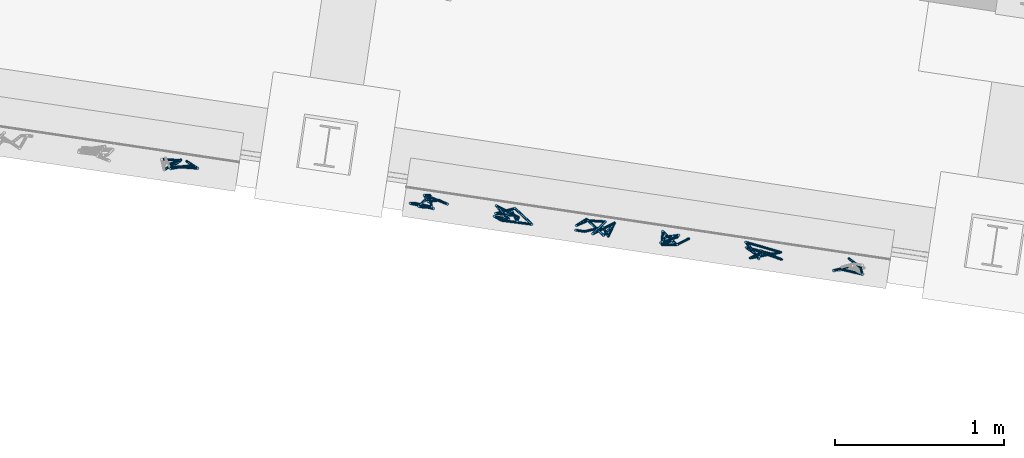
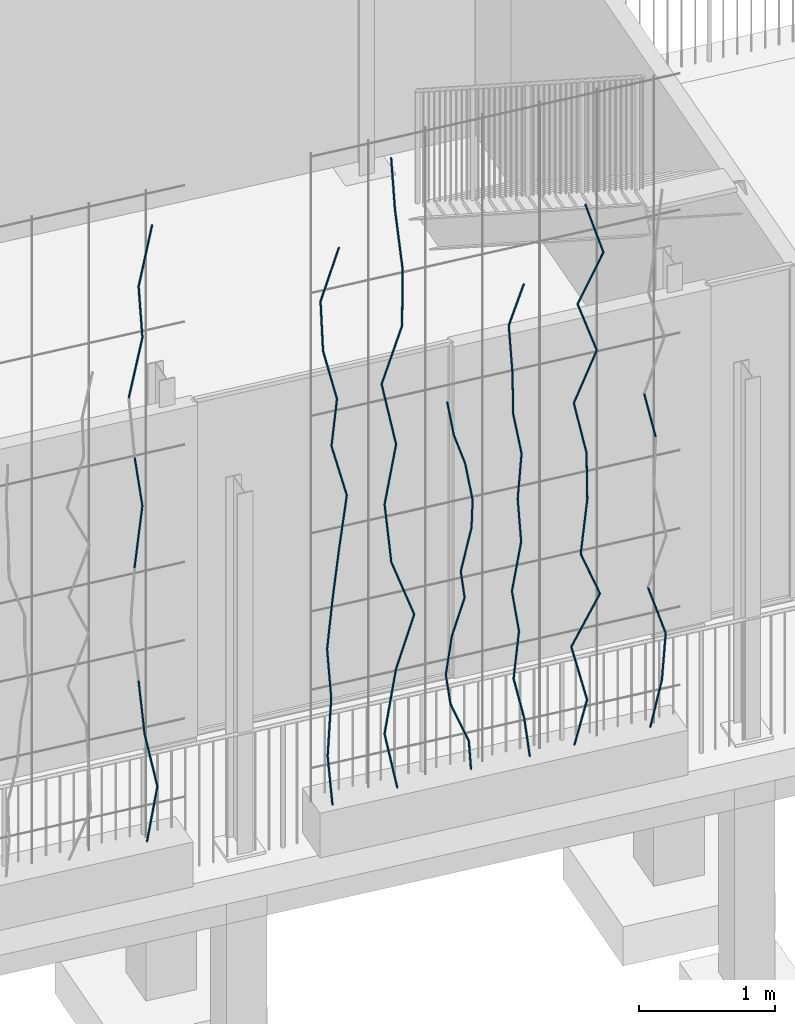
# One storey, part 125 of 143: 67 members, 1 element without a shape of its own.
"""IFC4 building model written with IfcOpenShell, lengths in metres."""

from ifc_helpers import new_model, si_unit, direction, frame, origin_with_axes, place, context, subcontext, project, spatial, circle, extrude, material, material_profile, profile_set, profile_usage, type_object, element, aggregate, save


model = new_model("IFC4")

# Units and contexts
model_context = context("Model", 3, precision=1e-05, world=origin_with_axes(), true_north=direction((0.0, 1.0)))
body_context = subcontext(model_context, "Body", "Model", "MODEL_VIEW")
ifc_project = project(units=[si_unit("VOLUMEUNIT", "CUBIC_METRE"), si_unit("LENGTHUNIT", "METRE"), si_unit("AREAUNIT", "SQUARE_METRE")], contexts=[model_context])

# Site, building, storey
site_placement = place(None, origin_with_axes())
site = spatial("IfcSite", under=ifc_project, at=site_placement, Name="Lares · Rua das Mercês · artigo 4771")
building_placement = place(site_placement, frame((15.0, 9.7, 15.8), z_axis=(0.0, 0.0, 1.0), x_axis=(0.989015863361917, -0.147809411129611, 0.0)))
building = spatial("IfcBuilding", under=site, at=building_placement, Name="Casa Sobreposta")
storey_placement = place(building_placement, origin_with_axes())
storey = spatial("IfcBuildingStorey", under=building, at=storey_placement, Name="00 · Habitação e estacionamento", Elevation=15.8)

# Assembly, members
assembly_placement = place(storey_placement, origin_with_axes())
assembly = element("IfcElementAssembly", 1, at=assembly_placement, inside=storey, Name="Fachada sul e pátio · estrutura e trepadeiras", ObjectType="LIVING_SHADE_TRELLIS", PredefinedType="USERDEFINED")
ifc_material = material(Name="Ramos de trepadeiras", Category="wood")
ifc_material_profile = material_profile(ifc_material, circle(Radius=0.0075))
ifc_profile_set = profile_set([ifc_material_profile], Name="D0.015")
ifc_profile_usage_1 = profile_usage(ifc_profile_set)
member_type = type_object("IfcMemberType", Name="D0.015 / vine_wood", PredefinedType="NOTDEFINED", material=ifc_profile_set)
member_1_placement = place(assembly_placement, frame((19.1898417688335, -1.65043430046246, 0.35), z_axis=(0.138740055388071, -0.062169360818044, 0.988375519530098), x_axis=(-0.408921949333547, -0.912569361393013, 0.0)))
member_1 = element("IfcMember", 2, at=member_1_placement, type_object=member_type, material=ifc_profile_usage_1, Name="Trepadeiras · ramo", context=body_context, shape_type="SweptSolid", body=[
    extrude(circle(Radius=0.0075), origin_with_axes(), (0.0, 0.0, 1.0), 0.508560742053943),
])
ifc_profile_usage_2 = profile_usage(ifc_profile_set)
member_2_placement = place(assembly_placement, frame((19.2603995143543, -1.68205119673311, 0.852648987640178), z_axis=(-0.203918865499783, -0.016448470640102, 0.978849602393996), x_axis=(-0.0804007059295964, 0.99676262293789, 0.0)))
member_2 = element("IfcMember", 3, at=member_2_placement, type_object=member_type, material=ifc_profile_usage_2, Name="Trepadeiras · ramo", context=body_context, shape_type="SweptSolid", body=[
    extrude(circle(Radius=0.0075), origin_with_axes(), (0.0, 0.0, 1.0), 0.513509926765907),
])
ifc_profile_usage_3 = profile_usage(ifc_profile_set)
member_3_placement = place(assembly_placement, frame((19.1556851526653, -1.69049764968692, 1.35529797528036), z_axis=(-0.106879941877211, -0.0350587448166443, 0.993653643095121), x_axis=(-0.311680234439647, 0.950187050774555, 0.0)))
member_3 = element("IfcMember", 4, at=member_3_placement, type_object=member_type, material=ifc_profile_usage_3, Name="Trepadeiras · ramo", context=body_context, shape_type="SweptSolid", body=[
    extrude(circle(Radius=0.0075), origin_with_axes(), (0.0, 0.0, 1.0), 0.505859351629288),
])
ifc_profile_usage_4 = profile_usage(ifc_profile_set)
member_4_placement = place(assembly_placement, frame((19.0765049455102, -1.69160728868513, 2.86324493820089), z_axis=(0.155101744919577, 0.0869630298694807, 0.984063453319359), x_axis=(0.489057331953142, -0.872251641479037, 0.0)))
member_4 = element("IfcMember", 5, at=member_4_placement, type_object=member_type, material=ifc_profile_usage_4, Name="Trepadeiras · ramo", context=body_context, shape_type="SweptSolid", body=[
    extrude(circle(Radius=0.0075), origin_with_axes(), (0.0, 0.0, 1.0), 0.510789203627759),
])
ifc_profile_usage_5 = profile_usage(ifc_profile_set)
member_5_placement = place(assembly_placement, frame((19.155729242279, -1.64718751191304, 3.36589392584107), z_axis=(-0.173161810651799, -0.141522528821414, 0.974672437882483), x_axis=(-0.632821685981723, 0.774297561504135, 0.0)))
member_5 = element("IfcMember", 6, at=member_5_placement, type_object=member_type, material=ifc_profile_usage_5, Name="Trepadeiras · ramo", context=body_context, shape_type="SweptSolid", body=[
    extrude(circle(Radius=0.0075), origin_with_axes(), (0.0, 0.0, 1.0), 0.515710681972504),
])
ifc_profile_usage_6 = profile_usage(ifc_profile_set)
member_6_placement = place(assembly_placement, frame((19.0430361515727, -1.66153923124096, 4.37119190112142), z_axis=(0.216829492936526, 0.0211767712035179, 0.975979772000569), x_axis=(0.0972030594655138, -0.99526457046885, 0.0)))
member_6 = element("IfcMember", 7, at=member_6_placement, type_object=member_type, material=ifc_profile_usage_6, Name="Trepadeiras · ramo", context=body_context, shape_type="SweptSolid", body=[
    extrude(circle(Radius=0.0075), origin_with_axes(), (0.0, 0.0, 1.0), 0.515019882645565),
])
ifc_profile_usage_7 = profile_usage(ifc_profile_set)
member_7_placement = place(assembly_placement, frame((19.154707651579, -1.65063277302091, 4.8738408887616), z_axis=(-0.098262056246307, -0.100013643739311, 0.990122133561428), x_axis=(-0.713325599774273, 0.700832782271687, 0.0)))
member_7 = element("IfcMember", 8, at=member_7_placement, type_object=member_type, material=ifc_profile_usage_7, Name="Trepadeiras · ramo", context=body_context, shape_type="SweptSolid", body=[
    extrude(circle(Radius=0.0075), origin_with_axes(), (0.0, 0.0, 1.0), 0.507663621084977),
])
ifc_profile_usage_8 = profile_usage(ifc_profile_set)
member_8_placement = place(assembly_placement, frame((19.1048235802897, -1.70140606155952, 5.37648987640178), z_axis=(0.228548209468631, 0.0570654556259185, 0.971858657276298), x_axis=(0.242249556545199, -0.970213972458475, 0.0)))
member_8 = element("IfcMember", 9, at=member_8_placement, type_object=member_type, material=ifc_profile_usage_8, Name="Trepadeiras · ramo", context=body_context, shape_type="SweptSolid", body=[
    extrude(circle(Radius=0.0075), origin_with_axes(), (0.0, 0.0, 1.0), 0.517203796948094),
])
ifc_profile_usage_9 = profile_usage(ifc_profile_set)
member_9_placement = place(assembly_placement, frame((20.6273763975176, -1.71270765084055, 0.35), z_axis=(-0.0835871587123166, 0.00224471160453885, 0.996497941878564), x_axis=(0.0268450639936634, 0.999639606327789, 0.0)))
member_9 = element("IfcMember", 10, at=member_9_placement, type_object=member_type, material=ifc_profile_usage_9, Name="Trepadeiras · ramo", context=body_context, shape_type="SweptSolid", body=[
    extrude(circle(Radius=0.0075), origin_with_axes(), (0.0, 0.0, 1.0), 0.454249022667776),
])
ifc_profile_usage_10 = profile_usage(ifc_profile_set)
member_10_placement = place(assembly_placement, frame((20.5894070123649, -1.71168799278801, 0.802658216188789), z_axis=(0.124814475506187, 0.161144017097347, 0.979006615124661), x_axis=(0.790586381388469, -0.61235053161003, 0.0)))
member_10 = element("IfcMember", 11, at=member_10_placement, type_object=member_type, material=ifc_profile_usage_10, Name="Trepadeiras · ramo", context=body_context, shape_type="SweptSolid", body=[
    extrude(circle(Radius=0.0075), origin_with_axes(), (0.0, 0.0, 1.0), 0.462364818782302),
])
ifc_profile_usage_11 = profile_usage(ifc_profile_set)
member_11_placement = place(assembly_placement, frame((20.6471168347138, -1.63718066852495, 1.25531643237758), z_axis=(-0.0761302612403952, -0.0115954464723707, 0.997030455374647), x_axis=(-0.150574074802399, 0.988598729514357, 0.0)))
member_11 = element("IfcMember", 12, at=member_11_placement, type_object=member_type, material=ifc_profile_usage_11, Name="Trepadeiras · ramo", context=body_context, shape_type="SweptSolid", body=[
    extrude(circle(Radius=0.0075), origin_with_axes(), (0.0, 0.0, 1.0), 0.454006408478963),
])
ifc_profile_usage_12 = profile_usage(ifc_profile_set)
member_12_placement = place(assembly_placement, frame((20.6125532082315, -1.64244507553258, 1.70797464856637), z_axis=(0.0638104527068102, -0.07208499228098, 0.995355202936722), x_axis=(-0.748775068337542, -0.662824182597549, 0.0)))
member_12 = element("IfcMember", 13, at=member_12_placement, type_object=member_type, material=ifc_profile_usage_12, Name="Trepadeiras · ramo", context=body_context, shape_type="SweptSolid", body=[
    extrude(circle(Radius=0.0075), origin_with_axes(), (0.0, 0.0, 1.0), 0.454770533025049),
])
ifc_profile_usage_13 = profile_usage(ifc_profile_set)
member_13_placement = place(assembly_placement, frame((20.6415723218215, -1.67522720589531, 2.16063286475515), z_axis=(0.134562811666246, 0.0371278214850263, 0.990209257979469), x_axis=(0.265975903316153, -0.963979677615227, 0.0)))
member_13 = element("IfcMember", 14, at=member_13_placement, type_object=member_type, material=ifc_profile_usage_13, Name="Trepadeiras · ramo", context=body_context, shape_type="SweptSolid", body=[
    extrude(circle(Radius=0.0075), origin_with_axes(), (0.0, 0.0, 1.0), 0.457133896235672),
])
ifc_profile_usage_14 = profile_usage(ifc_profile_set)
member_14_placement = place(assembly_placement, frame((20.7030855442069, -1.65825482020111, 2.61329108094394), z_axis=(0.115686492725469, -0.0326950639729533, 0.99274753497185), x_axis=(-0.271965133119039, -0.962307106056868, -3.58129519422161e-18)))
member_14 = element("IfcMember", 15, at=member_14_placement, type_object=member_type, material=ifc_profile_usage_14, Name="Trepadeiras · ramo", context=body_context, shape_type="SweptSolid", body=[
    extrude(circle(Radius=0.0075), origin_with_axes(), (0.0, 0.0, 1.0), 0.455965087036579),
])
ifc_profile_usage_15 = profile_usage(ifc_profile_set)
member_15_placement = place(assembly_placement, frame((20.7558345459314, -1.67316262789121, 3.06594929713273), z_axis=(-0.237226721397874, 0.0552053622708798, 0.969884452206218), x_axis=(0.226655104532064, 0.973975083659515, 0.0)))
member_15 = element("IfcMember", 16, at=member_15_placement, type_object=member_type, material=ifc_profile_usage_15, Name="Trepadeiras · ramo", context=body_context, shape_type="SweptSolid", body=[
    extrude(circle(Radius=0.0075), origin_with_axes(), (0.0, 0.0, 1.0), 0.466713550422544),
])
ifc_profile_usage_16 = profile_usage(ifc_profile_set)
member_16_placement = place(assembly_placement, frame((20.6451176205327, -1.6473975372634, 3.51860751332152), z_axis=(0.0464804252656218, -0.122384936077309, 0.991393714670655), x_axis=(-0.934849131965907, -0.35504520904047, 0.0)))
member_16 = element("IfcMember", 17, at=member_16_placement, type_object=member_type, material=ifc_profile_usage_16, Name="Trepadeiras · ramo", context=body_context, shape_type="SweptSolid", body=[
    extrude(circle(Radius=0.0075), origin_with_axes(), (0.0, 0.0, 1.0), 0.456587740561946),
])
ifc_profile_usage_17 = profile_usage(ifc_profile_set)
member_17_placement = place(assembly_placement, frame((20.6663400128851, -1.70327699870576, 3.97126572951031), z_axis=(-0.230614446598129, 0.0148450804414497, 0.972931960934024), x_axis=(0.0642389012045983, 0.997934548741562, 0.0)))
member_17 = element("IfcMember", 18, at=member_17_placement, type_object=member_type, material=ifc_profile_usage_17, Name="Trepadeiras · ramo", context=body_context, shape_type="SweptSolid", body=[
    extrude(circle(Radius=0.0075), origin_with_axes(), (0.0, 0.0, 1.0), 0.465251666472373),
])
ifc_profile_usage_18 = profile_usage(ifc_profile_set)
member_18_placement = place(assembly_placement, frame((20.5590462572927, -1.69637030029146, 4.4239239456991), z_axis=(-0.0477503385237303, -0.0120278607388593, 0.998786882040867), x_axis=(-0.244260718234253, 0.969709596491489, 0.0)))
member_18 = element("IfcMember", 19, at=member_18_placement, type_object=member_type, material=ifc_profile_usage_18, Name="Trepadeiras · ramo", context=body_context, shape_type="SweptSolid", body=[
    extrude(circle(Radius=0.0075), origin_with_axes(), (0.0, 0.0, 1.0), 0.453208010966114),
])
ifc_profile_usage_19 = profile_usage(ifc_profile_set)
member_19_placement = place(assembly_placement, frame((20.5374054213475, -1.70182142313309, 4.87658216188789), z_axis=(0.297139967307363, -0.0221915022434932, 0.95457601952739), x_axis=(-0.0744762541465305, -0.997222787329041, 0.0)))
member_19 = element("IfcMember", 20, at=member_19_placement, type_object=member_type, material=ifc_profile_usage_19, Name="Trepadeiras · ramo", context=body_context, shape_type="SweptSolid", body=[
    extrude(circle(Radius=0.0075), origin_with_axes(), (0.0, 0.0, 1.0), 0.474198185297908),
])
ifc_profile_usage_20 = profile_usage(ifc_profile_set)
member_20_placement = place(assembly_placement, frame((21.1508159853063, -1.68230697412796, 0.35), z_axis=(-0.195931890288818, -0.00688597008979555, 0.980593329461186), x_axis=(-0.0351230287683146, 0.99938299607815, 0.0)))
member_20 = element("IfcMember", 21, at=member_20_placement, type_object=member_type, material=ifc_profile_usage_20, Name="Trepadeiras · ramo", context=body_context, shape_type="SweptSolid", body=[
    extrude(circle(Radius=0.0075), origin_with_axes(), (0.0, 0.0, 1.0), 0.526725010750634),
])
ifc_profile_usage_21 = profile_usage(ifc_profile_set)
member_21_placement = place(assembly_placement, frame((21.0476137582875, -1.68593398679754, 0.866503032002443), z_axis=(0.203482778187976, 0.0879343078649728, 0.97512169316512), x_axis=(0.396689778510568, -0.917952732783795, 0.0)))
member_21 = element("IfcMember", 22, at=member_21_placement, type_object=member_type, material=ifc_profile_usage_21, Name="Trepadeiras · ramo", context=body_context, shape_type="SweptSolid", body=[
    extrude(circle(Radius=0.0075), origin_with_axes(), (0.0, 0.0, 1.0), 0.529680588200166),
])
ifc_profile_usage_22 = profile_usage(ifc_profile_set)
member_22_placement = place(assembly_placement, frame((21.1553946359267, -1.63935689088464, 1.38300606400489), z_axis=(0.212115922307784, -0.146392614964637, 0.966217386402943), x_axis=(-0.568011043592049, -0.823020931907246, 0.0)))
member_22 = element("IfcMember", 23, at=member_22_placement, type_object=member_type, material=ifc_profile_usage_22, Name="Trepadeiras · ramo", context=body_context, shape_type="SweptSolid", body=[
    extrude(circle(Radius=0.0075), origin_with_axes(), (0.0, 0.0, 1.0), 0.534561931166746),
])
ifc_profile_usage_23 = profile_usage(ifc_profile_set)
member_23_placement = place(assembly_placement, frame((21.2687837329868, -1.71761280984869, 1.89950909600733), z_axis=(-0.332001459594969, -0.00695787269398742, 0.943253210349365), x_axis=(-0.0209527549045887, 0.999780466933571, -1.23186526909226e-18)))
member_23 = element("IfcMember", 24, at=member_23_placement, type_object=member_type, material=ifc_profile_usage_23, Name="Trepadeiras · ramo", context=body_context, shape_type="SweptSolid", body=[
    extrude(circle(Radius=0.0075), origin_with_axes(), (0.0, 0.0, 1.0), 0.547576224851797),
])
ifc_profile_usage_24 = profile_usage(ifc_profile_set)
member_24_placement = place(assembly_placement, frame((21.0869876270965, -1.72142277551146, 2.41601212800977), z_axis=(-0.0884008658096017, 0.034321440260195, 0.995493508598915), x_axis=(0.361927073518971, 0.932206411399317, 0.0)))
member_24 = element("IfcMember", 25, at=member_24_placement, type_object=member_type, material=ifc_profile_usage_24, Name="Trepadeiras · ramo", context=body_context, shape_type="SweptSolid", body=[
    extrude(circle(Radius=0.0075), origin_with_axes(), (0.0, 0.0, 1.0), 0.518841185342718),
])
ifc_profile_usage_25 = profile_usage(ifc_profile_set)
member_25_placement = place(assembly_placement, frame((21.0411216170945, -1.70361539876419, 2.93251516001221), z_axis=(0.169583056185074, -0.00834312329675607, 0.985480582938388), x_axis=(-0.0491384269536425, -0.998791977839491, 0.0)))
member_25 = element("IfcMember", 26, at=member_25_placement, type_object=member_type, material=ifc_profile_usage_25, Name="Trepadeiras · ramo", context=body_context, shape_type="SweptSolid", body=[
    extrude(circle(Radius=0.0075), origin_with_axes(), (0.0, 0.0, 1.0), 0.524112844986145),
])
ifc_profile_usage_26 = profile_usage(ifc_profile_set)
member_26_placement = place(assembly_placement, frame((21.1300022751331, -1.70798813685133, 3.44901819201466), z_axis=(-0.165196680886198, 0.12887641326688, 0.977804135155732), x_axis=(0.615100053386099, 0.788449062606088, 0.0)))
member_26 = element("IfcMember", 27, at=member_26_placement, type_object=member_type, material=ifc_profile_usage_26, Name="Trepadeiras · ramo", context=body_context, shape_type="SweptSolid", body=[
    extrude(circle(Radius=0.0075), origin_with_axes(), (0.0, 0.0, 1.0), 0.528227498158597),
])
ifc_profile_usage_27 = profile_usage(ifc_profile_set)
member_27_placement = place(assembly_placement, frame((21.0427408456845, -1.63991207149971, 3.9655212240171), z_axis=(0.263772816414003, -0.0896208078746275, 0.960412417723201), x_axis=(-0.321703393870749, -0.946840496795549, 0.0)))
member_27 = element("IfcMember", 28, at=member_27_placement, type_object=member_type, material=ifc_profile_usage_27, Name="Trepadeiras · ramo", context=body_context, shape_type="SweptSolid", body=[
    extrude(circle(Radius=0.0075), origin_with_axes(), (0.0, 0.0, 1.0), 0.537792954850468),
])
ifc_profile_usage_28 = profile_usage(ifc_profile_set)
member_28_placement = place(assembly_placement, frame((21.184596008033, -1.68810951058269, 4.48202425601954), z_axis=(-0.00884303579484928, -0.0496550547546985, 0.998727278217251), x_axis=(-0.984509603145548, 0.175330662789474, 0.0)))
member_28 = element("IfcMember", 29, at=member_28_placement, type_object=member_type, material=ifc_profile_usage_28, Name="Trepadeiras · ramo", context=body_context, shape_type="SweptSolid", body=[
    extrude(circle(Radius=0.0075), origin_with_axes(), (0.0, 0.0, 1.0), 0.517161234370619),
])
ifc_profile_usage_29 = profile_usage(ifc_profile_set)
member_29_placement = place(assembly_placement, frame((21.1800227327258, -1.71378917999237, 4.99852728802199), z_axis=(-0.0758756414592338, 0.105289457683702, 0.991542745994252), x_axis=(0.811288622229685, 0.584645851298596, 0.0)))
member_29 = element("IfcMember", 30, at=member_29_placement, type_object=member_type, material=ifc_profile_usage_29, Name="Trepadeiras · ramo", context=body_context, shape_type="SweptSolid", body=[
    extrude(circle(Radius=0.0075), origin_with_axes(), (0.0, 0.0, 1.0), 0.520908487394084),
])
ifc_profile_usage_30 = profile_usage(ifc_profile_set)
member_30_placement = place(assembly_placement, frame((21.1404984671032, -1.65894300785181, 5.51503032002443), z_axis=(-0.104207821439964, -0.117962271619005, 0.987535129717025), x_axis=(-0.749448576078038, 0.662062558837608, -1.08838242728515e-17)))
member_30 = element("IfcMember", 31, at=member_30_placement, type_object=member_type, material=ifc_profile_usage_30, Name="Trepadeiras · ramo", context=body_context, shape_type="SweptSolid", body=[
    extrude(circle(Radius=0.0075), origin_with_axes(), (0.0, 0.0, 1.0), 0.523022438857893),
])
ifc_profile_usage_31 = profile_usage(ifc_profile_set)
member_31_placement = place(assembly_placement, frame((21.7400761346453, -1.65737869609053, 0.35), z_axis=(-0.132655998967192, -0.198443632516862, 0.971093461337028), x_axis=(-0.831353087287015, 0.555744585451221, 0.0)))
member_31 = element("IfcMember", 32, at=member_31_placement, type_object=member_type, material=ifc_profile_usage_31, Name="Trepadeiras · ramo", context=body_context, shape_type="SweptSolid", body=[
    extrude(circle(Radius=0.0075), origin_with_axes(), (0.0, 0.0, 1.0), 0.316169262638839),
])
ifc_profile_usage_32 = profile_usage(ifc_profile_set)
member_32_placement = place(assembly_placement, frame((21.6981343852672, -1.72012047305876, 0.657029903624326), z_axis=(-0.333334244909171, 0.241004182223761, 0.911485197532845), x_axis=(0.585910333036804, 0.810375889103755, 0.0)))
member_32 = element("IfcMember", 33, at=member_32_placement, type_object=member_type, material=ifc_profile_usage_32, Name="Trepadeiras · ramo", context=body_context, shape_type="SweptSolid", body=[
    extrude(circle(Radius=0.0075), origin_with_axes(), (0.0, 0.0, 1.0), 0.336845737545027),
])
ifc_profile_usage_33 = profile_usage(ifc_profile_set)
member_33_placement = place(assembly_placement, frame((21.5858521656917, -1.63893924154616, 0.964059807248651), z_axis=(-0.176045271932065, -0.148963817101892, 0.973045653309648), x_axis=(-0.645948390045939, 0.763381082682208, 0.0)))
member_33 = element("IfcMember", 34, at=member_33_placement, type_object=member_type, material=ifc_profile_usage_33, Name="Trepadeiras · ramo", context=body_context, shape_type="SweptSolid", body=[
    extrude(circle(Radius=0.0075), origin_with_axes(), (0.0, 0.0, 1.0), 0.31553494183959),
])
ifc_profile_usage_34 = profile_usage(ifc_profile_set)
member_34_placement = place(assembly_placement, frame((21.5303037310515, -1.68594253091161, 1.27108971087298), z_axis=(0.200304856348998, 0.124144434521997, 0.971836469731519), x_axis=(0.526803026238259, -0.84998739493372, 0.0)))
member_34 = element("IfcMember", 35, at=member_34_placement, type_object=member_type, material=ifc_profile_usage_34, Name="Trepadeiras · ramo", context=body_context, shape_type="SweptSolid", body=[
    extrude(circle(Radius=0.0075), origin_with_axes(), (0.0, 0.0, 1.0), 0.315927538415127),
])
ifc_profile_usage_35 = profile_usage(ifc_profile_set)
member_35_placement = place(assembly_placement, frame((21.5935855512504, -1.64672188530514, 1.5781196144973), z_axis=(0.32025230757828, 0.0266897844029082, 0.946956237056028), x_axis=(0.083051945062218, -0.996545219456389, 0.0)))
member_35 = element("IfcMember", 36, at=member_35_placement, type_object=member_type, material=ifc_profile_usage_35, Name="Trepadeiras · ramo", context=body_context, shape_type="SweptSolid", body=[
    extrude(circle(Radius=0.0075), origin_with_axes(), (0.0, 0.0, 1.0), 0.324228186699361),
])
ifc_profile_usage_36 = profile_usage(ifc_profile_set)
member_36_placement = place(assembly_placement, frame((21.6974203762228, -1.63806830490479, 1.88514951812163), z_axis=(-0.194227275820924, -0.253704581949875, 0.947580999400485), x_axis=(-0.794028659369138, 0.607880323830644, 0.0)))
member_36 = element("IfcMember", 37, at=member_36_placement, type_object=member_type, material=ifc_profile_usage_36, Name="Trepadeiras · ramo", context=body_context, shape_type="SweptSolid", body=[
    extrude(circle(Radius=0.0075), origin_with_axes(), (0.0, 0.0, 1.0), 0.324014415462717),
])
ifc_profile_usage_37 = profile_usage(ifc_profile_set)
member_37_placement = place(assembly_placement, frame((21.6344879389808, -1.72027224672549, 2.19217942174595), z_axis=(0.346862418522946, 0.245001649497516, 0.905351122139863), x_axis=(0.576930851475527, -0.816792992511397, 0.0)))
member_37 = element("IfcMember", 38, at=member_37_placement, type_object=member_type, material=ifc_profile_usage_37, Name="Trepadeiras · ramo", context=body_context, shape_type="SweptSolid", body=[
    extrude(circle(Radius=0.0075), origin_with_axes(), (0.0, 0.0, 1.0), 0.339127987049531),
])
ifc_profile_usage_38 = profile_usage(ifc_profile_set)
member_38_placement = place(assembly_placement, frame((21.7521186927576, -1.63718533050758, 2.49920932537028), z_axis=(-0.0767531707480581, -0.261711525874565, 0.962089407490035), x_axis=(-0.959584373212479, 0.281421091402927, 0.0)))
member_38 = element("IfcMember", 39, at=member_38_placement, type_object=member_type, material=ifc_profile_usage_38, Name="Trepadeiras · ramo", context=body_context, shape_type="SweptSolid", body=[
    extrude(circle(Radius=0.0075), origin_with_axes(), (0.0, 0.0, 1.0), 0.319128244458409),
])
ifc_profile_usage_39 = profile_usage(ifc_profile_set)
member_39_placement = place(assembly_placement, frame((21.7276245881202, -1.72070487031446, 2.80623922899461), z_axis=(-0.128062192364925, 0.15347184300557, 0.979819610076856), x_axis=(0.767805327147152, 0.640683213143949, 1.70070422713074e-17)))
member_39 = element("IfcMember", 40, at=member_39_placement, type_object=member_type, material=ifc_profile_usage_39, Name="Trepadeiras · ramo", context=body_context, shape_type="SweptSolid", body=[
    extrude(circle(Radius=0.0075), origin_with_axes(), (0.0, 0.0, 1.0), 0.313353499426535),
])
ifc_profile_usage_40 = profile_usage(ifc_profile_set)
member_40_placement = place(assembly_placement, frame((21.6874958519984, -1.67261393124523, 3.11326913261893), z_axis=(-0.321953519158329, -0.127479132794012, 0.938133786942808), x_axis=(-0.368146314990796, 0.929767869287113, 0.0)))
member_40 = element("IfcMember", 41, at=member_40_placement, type_object=member_type, material=ifc_profile_usage_40, Name="Trepadeiras · ramo", context=body_context, shape_type="SweptSolid", body=[
    extrude(circle(Radius=0.0075), origin_with_axes(), (0.0, 0.0, 1.0), 0.32727731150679),
])
ifc_profile_usage_41 = profile_usage(ifc_profile_set)
member_41_placement = place(assembly_placement, frame((21.5821277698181, -1.71433495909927, 3.42029903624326), z_axis=(-0.1646374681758, 0.00473812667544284, 0.986342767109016), x_axis=(0.028767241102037, 0.999586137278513, 0.0)))
member_41 = element("IfcMember", 42, at=member_41_placement, type_object=member_type, material=ifc_profile_usage_41, Name="Trepadeiras · ramo", context=body_context, shape_type="SweptSolid", body=[
    extrude(circle(Radius=0.0075), origin_with_axes(), (0.0, 0.0, 1.0), 0.31128114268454),
])
ifc_profile_usage_42 = profile_usage(ifc_profile_set)
member_42_placement = place(assembly_placement, frame((22.2010948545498, -1.66404666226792, 0.35), z_axis=(-0.156267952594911, -0.113426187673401, 0.981180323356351), x_axis=(-0.587415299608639, 0.809285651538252, 0.0)))
member_42 = element("IfcMember", 43, at=member_42_placement, type_object=member_type, material=ifc_profile_usage_42, Name="Trepadeiras · ramo", context=body_context, shape_type="SweptSolid", body=[
    extrude(circle(Radius=0.0075), origin_with_axes(), (0.0, 0.0, 1.0), 0.39630472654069),
])
ifc_profile_usage_43 = profile_usage(ifc_profile_set)
member_43_placement = place(assembly_placement, frame((22.1391651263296, -1.70899799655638, 0.738846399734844), z_axis=(-0.22503098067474, -0.0357928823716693, 0.973693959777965), x_axis=(-0.157082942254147, 0.98758541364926, 0.0)))
member_43 = element("IfcMember", 44, at=member_43_placement, type_object=member_type, material=ifc_profile_usage_43, Name="Trepadeiras · ramo", context=body_context, shape_type="SweptSolid", body=[
    extrude(circle(Radius=0.0075), origin_with_axes(), (0.0, 0.0, 1.0), 0.399351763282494),
])
ifc_profile_usage_44 = profile_usage(ifc_profile_set)
member_44_placement = place(assembly_placement, frame((22.0492986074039, -1.72329194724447, 1.12769279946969), z_axis=(0.140633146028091, 0.0834297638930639, 0.986540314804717), x_axis=(0.510216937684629, -0.860045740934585, 0.0)))
member_44 = element("IfcMember", 45, at=member_44_placement, type_object=member_type, material=ifc_profile_usage_44, Name="Trepadeiras · ramo", context=body_context, shape_type="SweptSolid", body=[
    extrude(circle(Radius=0.0075), origin_with_axes(), (0.0, 0.0, 1.0), 0.394151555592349),
])
ifc_profile_usage_45 = profile_usage(ifc_profile_set)
member_45_placement = place(assembly_placement, frame((22.1047293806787, -1.69040797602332, 1.51653919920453), z_axis=(-0.163460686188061, -0.0585675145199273, 0.984809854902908), x_axis=(-0.337300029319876, 0.941397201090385, 0.0)))
member_45 = element("IfcMember", 46, at=member_45_placement, type_object=member_type, material=ifc_profile_usage_45, Name="Trepadeiras · ramo", context=body_context, shape_type="SweptSolid", body=[
    extrude(circle(Radius=0.0075), origin_with_axes(), (0.0, 0.0, 1.0), 0.394844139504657),
])
ifc_profile_usage_46 = profile_usage(ifc_profile_set)
member_46_placement = place(assembly_placement, frame((22.040187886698, -1.71353301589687, 1.90538559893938), z_axis=(0.227101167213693, 0.117683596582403, 0.966734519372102), x_axis=(0.460093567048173, -0.8878704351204, 0.0)))
member_46 = element("IfcMember", 47, at=member_46_placement, type_object=member_type, material=ifc_profile_usage_46, Name="Trepadeiras · ramo", context=body_context, shape_type="SweptSolid", body=[
    extrude(circle(Radius=0.0075), origin_with_axes(), (0.0, 0.0, 1.0), 0.402226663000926),
])
ifc_profile_usage_47 = profile_usage(ifc_profile_set)
member_47_placement = place(assembly_placement, frame((22.1315340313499, -1.66619753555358, 2.29423199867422), z_axis=(-0.0684616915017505, 0.00441438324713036, 0.997643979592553), x_axis=(0.0643459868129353, 0.997927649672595, 0.0)))
member_47 = element("IfcMember", 48, at=member_47_placement, type_object=member_type, material=ifc_profile_usage_47, Name="Trepadeiras · ramo", context=body_context, shape_type="SweptSolid", body=[
    extrude(circle(Radius=0.0075), origin_with_axes(), (0.0, 0.0, 1.0), 0.389764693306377),
])
ifc_profile_usage_48 = profile_usage(ifc_profile_set)
member_48_placement = place(assembly_placement, frame((22.1048500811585, -1.66447696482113, 2.68307839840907), z_axis=(0.0895386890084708, 0.0295004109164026, 0.995546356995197), x_axis=(0.312924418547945, -0.949778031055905, 0.0)))
member_48 = element("IfcMember", 49, at=member_48_placement, type_object=member_type, material=ifc_profile_usage_48, Name="Trepadeiras · ramo", context=body_context, shape_type="SweptSolid", body=[
    extrude(circle(Radius=0.0075), origin_with_axes(), (0.0, 0.0, 1.0), 0.390585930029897),
])
ifc_profile_usage_49 = profile_usage(ifc_profile_set)
member_49_placement = place(assembly_placement, frame((22.1398226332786, -1.65295451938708, 3.07192479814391), z_axis=(-0.188230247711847, -0.0543596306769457, 0.980619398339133), x_axis=(-0.277454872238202, 0.960738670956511, 0.0)))
member_49 = element("IfcMember", 50, at=member_49_placement, type_object=member_type, material=ifc_profile_usage_49, Name="Trepadeiras · ramo", context=body_context, shape_type="SweptSolid", body=[
    extrude(circle(Radius=0.0075), origin_with_axes(), (0.0, 0.0, 1.0), 0.396531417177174),
])
ifc_profile_usage_50 = profile_usage(ifc_profile_set)
member_50_placement = place(assembly_placement, frame((22.0651834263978, -1.67450982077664, 3.46077119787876), z_axis=(-0.0452248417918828, -0.080516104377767, 0.995726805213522), x_axis=(-0.871878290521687, 0.489722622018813, 0.0)))
member_50 = element("IfcMember", 51, at=member_50_placement, type_object=member_type, material=ifc_profile_usage_50, Name="Trepadeiras · ramo", context=body_context, shape_type="SweptSolid", body=[
    extrude(circle(Radius=0.0075), origin_with_axes(), (0.0, 0.0, 1.0), 0.390515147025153),
])
ifc_profile_usage_51 = profile_usage(ifc_profile_set)
member_51_placement = place(assembly_placement, frame((22.0475224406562, -1.70595257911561, 3.8496175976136), z_axis=(-0.0136161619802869, 0.154508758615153, 0.987897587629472), x_axis=(0.996139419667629, 0.0877852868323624, 0.0)))
member_51 = element("IfcMember", 52, at=member_51_placement, type_object=member_type, material=ifc_profile_usage_51, Name="Trepadeiras · ramo", context=body_context, shape_type="SweptSolid", body=[
    extrude(circle(Radius=0.0075), origin_with_axes(), (0.0, 0.0, 1.0), 0.393610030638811),
])
ifc_profile_usage_52 = profile_usage(ifc_profile_set)
member_52_placement = place(assembly_placement, frame((22.042162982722, -1.64513638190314, 4.23846399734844), z_axis=(0.229076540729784, -0.161181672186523, 0.959971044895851), x_axis=(-0.575444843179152, -0.817840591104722, 0.0)))
member_52 = element("IfcMember", 53, at=member_52_placement, type_object=member_type, material=ifc_profile_usage_52, Name="Trepadeiras · ramo", context=body_context, shape_type="SweptSolid", body=[
    extrude(circle(Radius=0.0075), origin_with_axes(), (0.0, 0.0, 1.0), 0.405060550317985),
])
ifc_profile_usage_53 = profile_usage(ifc_profile_set)
member_53_placement = place(assembly_placement, frame((22.5568028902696, -1.64792253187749, 0.35), z_axis=(0.159137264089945, -0.163908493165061, 0.973554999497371), x_axis=(-0.71747215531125, -0.696587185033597, 0.0)))
member_53 = element("IfcMember", 54, at=member_53_placement, type_object=member_type, material=ifc_profile_usage_53, Name="Trepadeiras · ramo", context=body_context, shape_type="SweptSolid", body=[
    extrude(circle(Radius=0.0075), origin_with_axes(), (0.0, 0.0, 1.0), 0.451603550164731),
])
ifc_profile_usage_54 = profile_usage(ifc_profile_set)
member_54_placement = place(assembly_placement, frame((22.6286698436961, -1.72194418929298, 0.789660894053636), z_axis=(-0.19739697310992, 0.189913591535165, 0.96175218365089), x_axis=(0.693315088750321, 0.720634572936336, -2.43628467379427e-17)))
member_54 = element("IfcMember", 55, at=member_54_placement, type_object=member_type, material=ifc_profile_usage_54, Name="Trepadeiras · ramo", context=body_context, shape_type="SweptSolid", body=[
    extrude(circle(Radius=0.0075), origin_with_axes(), (0.0, 0.0, 1.0), 0.45714571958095),
])
ifc_profile_usage_55 = profile_usage(ifc_profile_set)
member_55_placement = place(assembly_placement, frame((22.5384306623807, -1.63512600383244, 1.22932178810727), z_axis=(0.437876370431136, -0.0583722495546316, 0.897138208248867), x_axis=(-0.132138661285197, -0.991231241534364, 0.0)))
member_55 = element("IfcMember", 56, at=member_55_placement, type_object=member_type, material=ifc_profile_usage_55, Name="Trepadeiras · ramo", context=body_context, shape_type="SweptSolid", body=[
    extrude(circle(Radius=0.0075), origin_with_axes(), (0.0, 0.0, 1.0), 0.490070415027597),
])
ifc_profile_usage_56 = profile_usage(ifc_profile_set)
member_56_placement = place(assembly_placement, frame((22.7530209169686, -1.66373251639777, 1.66898268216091), z_axis=(-0.367638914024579, -0.127090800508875, 0.921243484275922), x_axis=(-0.326722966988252, 0.945120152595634, 1.64335059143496e-17)))
member_56 = element("IfcMember", 57, at=member_56_placement, type_object=member_type, material=ifc_profile_usage_56, Name="Trepadeiras · ramo", context=body_context, shape_type="SweptSolid", body=[
    extrude(circle(Radius=0.0075), origin_with_axes(), (0.0, 0.0, 1.0), 0.477247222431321),
])
ifc_profile_usage_57 = profile_usage(ifc_profile_set)
member_57_placement = place(assembly_placement, frame((22.5775662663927, -1.7243862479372, 2.10864357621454), z_axis=(0.159100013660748, 0.110484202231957, 0.9810608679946), x_axis=(0.57038912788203, -0.82137460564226, 0.0)))
member_57 = element("IfcMember", 58, at=member_57_placement, type_object=member_type, material=ifc_profile_usage_57, Name="Trepadeiras · ramo", context=body_context, shape_type="SweptSolid", body=[
    extrude(circle(Radius=0.0075), origin_with_axes(), (0.0, 0.0, 1.0), 0.448148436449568),
])
ifc_profile_usage_58 = profile_usage(ifc_profile_set)
member_58_placement = place(assembly_placement, frame((22.6488666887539, -1.67487292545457, 2.54830447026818), z_axis=(-0.0433477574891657, -0.0749045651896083, 0.996248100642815), x_axis=(-0.865516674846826, 0.500880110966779, 0.0)))
member_58 = element("IfcMember", 59, at=member_58_placement, type_object=member_type, material=ifc_profile_usage_58, Name="Trepadeiras · ramo", context=body_context, shape_type="SweptSolid", body=[
    extrude(circle(Radius=0.0075), origin_with_axes(), (0.0, 0.0, 1.0), 0.441316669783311),
])
ifc_profile_usage_59 = profile_usage(ifc_profile_set)
member_59_placement = place(assembly_placement, frame((22.6297366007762, -1.70792955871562, 2.98796536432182), z_axis=(-0.186207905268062, 0.0927095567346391, 0.978126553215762), x_axis=(0.445696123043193, 0.895184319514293, 0.0)))
member_59 = element("IfcMember", 60, at=member_59_placement, type_object=member_type, material=ifc_profile_usage_59, Name="Trepadeiras · ramo", context=body_context, shape_type="SweptSolid", body=[
    extrude(circle(Radius=0.0075), origin_with_axes(), (0.0, 0.0, 1.0), 0.449492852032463),
])
ifc_profile_usage_60 = profile_usage(ifc_profile_set)
member_60_placement = place(assembly_placement, frame((22.5460374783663, -1.6662572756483, 3.42762625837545), z_axis=(0.367929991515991, -0.0378235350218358, 0.929083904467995), x_axis=(-0.102261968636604, -0.994757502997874, 0.0)))
member_60 = element("IfcMember", 61, at=member_60_placement, type_object=member_type, material=ifc_profile_usage_60, Name="Trepadeiras · ramo", context=body_context, shape_type="SweptSolid", body=[
    extrude(circle(Radius=0.0075), origin_with_axes(), (0.0, 0.0, 1.0), 0.473219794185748),
])
ifc_profile_usage_61 = profile_usage(ifc_profile_set)
member_61_placement = place(assembly_placement, frame((22.7201492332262, -1.68415612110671, 3.86728715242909), z_axis=(-0.313257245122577, 0.0332791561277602, 0.949085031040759), x_axis=(0.105641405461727, 0.994404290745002, 0.0)))
member_61 = element("IfcMember", 62, at=member_61_placement, type_object=member_type, material=ifc_profile_usage_61, Name="Trepadeiras · ramo", context=body_context, shape_type="SweptSolid", body=[
    extrude(circle(Radius=0.0075), origin_with_axes(), (0.0, 0.0, 1.0), 0.463247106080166),
])
ifc_profile_usage_62 = profile_usage(ifc_profile_set)
member_62_placement = place(assembly_placement, frame((22.5750337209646, -1.66873964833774, 4.30694804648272), z_axis=(0.393220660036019, -0.076026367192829, 0.916295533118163), x_axis=(-0.189827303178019, -0.981817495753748, 0.0)))
member_62 = element("IfcMember", 63, at=member_62_placement, type_object=member_type, material=ifc_profile_usage_62, Name="Trepadeiras · ramo", context=body_context, shape_type="SweptSolid", body=[
    extrude(circle(Radius=0.0075), origin_with_axes(), (0.0, 0.0, 1.0), 0.479824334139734),
])
ifc_profile_usage_63 = profile_usage(ifc_profile_set)
member_63_placement = place(assembly_placement, frame((22.7637105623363, -1.7052189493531, 4.74660894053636), z_axis=(-0.281828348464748, 0.0716682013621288, 0.956784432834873), x_axis=(0.246453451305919, 0.96915462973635, 0.0)))
member_63 = element("IfcMember", 64, at=member_63_placement, type_object=member_type, material=ifc_profile_usage_63, Name="Trepadeiras · ramo", context=body_context, shape_type="SweptSolid", body=[
    extrude(circle(Radius=0.0075), origin_with_axes(), (0.0, 0.0, 1.0), 0.459519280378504),
])
ifc_profile_usage_64 = profile_usage(ifc_profile_set)
member_64_placement = place(assembly_placement, frame((23.1572684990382, -1.64112605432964, 0.35), z_axis=(0.170564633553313, -0.0943483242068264, 0.980819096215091), x_axis=(-0.484035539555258, -0.875048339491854, 0.0)))
member_64 = element("IfcMember", 65, at=member_64_placement, type_object=member_type, material=ifc_profile_usage_64, Name="Trepadeiras · ramo", context=body_context, shape_type="SweptSolid", body=[
    extrude(circle(Radius=0.0075), origin_with_axes(), (0.0, 0.0, 1.0), 0.446052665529),
])
ifc_profile_usage_65 = profile_usage(ifc_profile_set)
member_65_placement = place(assembly_placement, frame((23.2333493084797, -1.68321037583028, 0.787496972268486), z_axis=(0.0340344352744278, -0.0856832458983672, 0.995740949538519), x_axis=(-0.929367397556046, -0.369156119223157, 0.0)))
member_65 = element("IfcMember", 66, at=member_65_placement, type_object=member_type, material=ifc_profile_usage_65, Name="Trepadeiras · ramo", context=body_context, shape_type="SweptSolid", body=[
    extrude(circle(Radius=0.0075), origin_with_axes(), (0.0, 0.0, 1.0), 0.439368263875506),
])
ifc_profile_usage_66 = profile_usage(ifc_profile_set)
member_66_placement = place(assembly_placement, frame((23.2483029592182, -1.72085687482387, 1.22499394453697), z_axis=(-0.295906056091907, 0.0242868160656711, 0.954908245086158), x_axis=(0.0818010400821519, 0.996648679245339, 0.0)))
member_66 = element("IfcMember", 67, at=member_66_placement, type_object=member_type, material=ifc_profile_usage_66, Name="Trepadeiras · ramo", context=body_context, shape_type="SweptSolid", body=[
    extrude(circle(Radius=0.0075), origin_with_axes(), (0.0, 0.0, 1.0), 0.458156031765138),
])
ifc_profile_usage_67 = profile_usage(ifc_profile_set)
member_67_placement = place(assembly_placement, frame((23.1844408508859, -1.67956518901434, 2.97498183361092), z_axis=(-0.235996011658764, -0.0998857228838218, 0.966606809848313), x_axis=(-0.389776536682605, 0.920909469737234, 0.0)))
member_67 = element("IfcMember", 68, at=member_67_placement, type_object=member_type, material=ifc_profile_usage_67, Name="Trepadeiras · ramo", context=body_context, shape_type="SweptSolid", body=[
    extrude(circle(Radius=0.0075), origin_with_axes(), (0.0, 0.0, 1.0), 0.452611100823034),
])
aggregate(assembly, [member_1, member_2, member_3, member_4, member_5, member_6, member_7, member_8, member_9, member_10, member_11, member_12, member_13, member_14, member_15, member_16, member_17, member_18, member_19, member_20, member_21, member_22, member_23, member_24, member_25, member_26, member_27, member_28, member_29, member_30, member_31, member_32, member_33, member_34, member_35, member_36, member_37, member_38, member_39, member_40, member_41, member_42, member_43, member_44, member_45, member_46, member_47, member_48, member_49, member_50, member_51, member_52, member_53, member_54, member_55, member_56, member_57, member_58, member_59, member_60, member_61, member_62, member_63, member_64, member_65, member_66, member_67])

save(model, "model.ifc")
